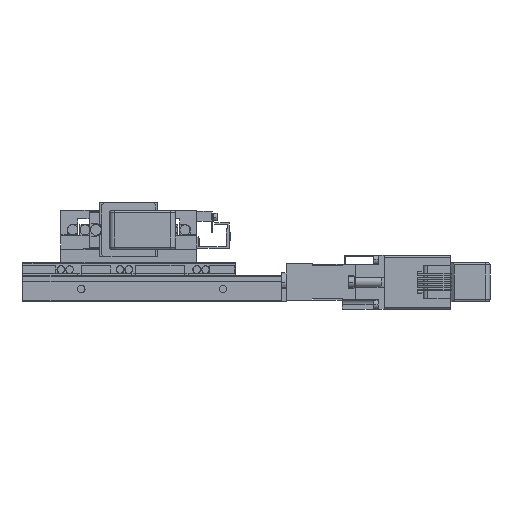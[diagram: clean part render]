
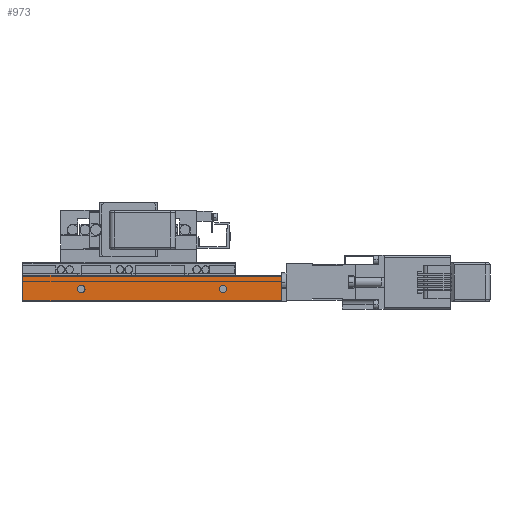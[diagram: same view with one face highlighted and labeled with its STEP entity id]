
A CAD part, front view. The second image highlights one B-rep face of the part: STEP entity #973.
In plain terms, the highlighted planar face has unit normal (0, -1, 0).
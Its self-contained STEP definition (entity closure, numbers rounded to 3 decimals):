
#973=ADVANCED_FACE('',(#2579,#2580,#2581),#2582,.F.);
#2579=FACE_BOUND('',#5201,.T.);
#2580=FACE_BOUND('',#5202,.T.);
#2581=FACE_OUTER_BOUND('',#5203,.T.);
#2582=PLANE('',#5204);
#5201=EDGE_LOOP('',(#9662,#9663));
#5202=EDGE_LOOP('',(#9664,#9665));
#5203=EDGE_LOOP('',(#9666,#9667,#9668,#9669));
#5204=AXIS2_PLACEMENT_3D('',#9670,#9671,#9672);
#9662=ORIENTED_EDGE('',*,*,#17693,.T.);
#9663=ORIENTED_EDGE('',*,*,#17692,.T.);
#9664=ORIENTED_EDGE('',*,*,#17695,.T.);
#9665=ORIENTED_EDGE('',*,*,#17688,.T.);
#9666=ORIENTED_EDGE('',*,*,#17696,.T.);
#9667=ORIENTED_EDGE('',*,*,#17697,.F.);
#9668=ORIENTED_EDGE('',*,*,#17698,.F.);
#9669=ORIENTED_EDGE('',*,*,#17699,.T.);
#9670=CARTESIAN_POINT('',(78.5,-51.8,13.5));
#9671=DIRECTION('',(0.,1.0,0.));
#9672=DIRECTION('',(0.,0.,-1.0));
#17688=EDGE_CURVE('',#21233,#21237,#21239,.T.);
#17692=EDGE_CURVE('',#21241,#21245,#21247,.T.);
#17693=EDGE_CURVE('',#21245,#21241,#21248,.T.);
#17695=EDGE_CURVE('',#21237,#21233,#21250,.T.);
#17696=EDGE_CURVE('',#21251,#21252,#21253,.T.);
#17697=EDGE_CURVE('',#21254,#21252,#21255,.T.);
#17698=EDGE_CURVE('',#21256,#21254,#21257,.T.);
#17699=EDGE_CURVE('',#21256,#21251,#21258,.T.);
#21233=VERTEX_POINT('',#26684);
#21237=VERTEX_POINT('',#26689);
#21239=CIRCLE('',#26692,1.95);
#21241=VERTEX_POINT('',#26694);
#21245=VERTEX_POINT('',#26699);
#21247=CIRCLE('',#26702,1.95);
#21248=CIRCLE('',#26703,1.95);
#21250=CIRCLE('',#26705,1.95);
#21251=VERTEX_POINT('',#26706);
#21252=VERTEX_POINT('',#26707);
#21253=LINE('',#26708,#26709);
#21254=VERTEX_POINT('',#26710);
#21255=LINE('',#26711,#26712);
#21256=VERTEX_POINT('',#26713);
#21257=LINE('',#26714,#26715);
#21258=LINE('',#26716,#26717);
#26684=CARTESIAN_POINT('',(50.45,-51.8,6.5));
#26689=CARTESIAN_POINT('',(46.55,-51.8,6.5));
#26692=AXIS2_PLACEMENT_3D('',#33994,#33995,#33996);
#26694=CARTESIAN_POINT('',(-22.55,-51.8,6.5));
#26699=CARTESIAN_POINT('',(-26.45,-51.8,6.5));
#26702=AXIS2_PLACEMENT_3D('',#34002,#34003,#34004);
#26703=AXIS2_PLACEMENT_3D('',#34005,#34006,#34007);
#26705=AXIS2_PLACEMENT_3D('',#34011,#34012,#34013);
#26706=CARTESIAN_POINT('',(-54.5,-51.8,13.5));
#26707=CARTESIAN_POINT('',(-54.5,-51.8,0.5));
#26708=CARTESIAN_POINT('',(-54.5,-51.8,13.5));
#26709=VECTOR('',#34014,1000.0);
#26710=CARTESIAN_POINT('',(78.5,-51.8,0.5));
#26711=CARTESIAN_POINT('',(78.5,-51.8,0.5));
#26712=VECTOR('',#34015,1000.0);
#26713=CARTESIAN_POINT('',(78.5,-51.8,13.5));
#26714=CARTESIAN_POINT('',(78.5,-51.8,13.5));
#26715=VECTOR('',#34016,1000.0);
#26716=CARTESIAN_POINT('',(78.5,-51.8,13.5));
#26717=VECTOR('',#34017,1000.0);
#33994=CARTESIAN_POINT('',(48.5,-51.8,6.5));
#33995=DIRECTION('',(0.,1.0,0.));
#33996=DIRECTION('',(-1.0,0.,0.));
#34002=CARTESIAN_POINT('',(-24.5,-51.8,6.5));
#34003=DIRECTION('',(0.,1.0,0.));
#34004=DIRECTION('',(-1.0,0.,0.));
#34005=CARTESIAN_POINT('',(-24.5,-51.8,6.5));
#34006=DIRECTION('',(0.,1.0,0.));
#34007=DIRECTION('',(-1.0,0.,0.));
#34011=CARTESIAN_POINT('',(48.5,-51.8,6.5));
#34012=DIRECTION('',(0.,1.0,0.));
#34013=DIRECTION('',(-1.0,0.,0.));
#34014=DIRECTION('',(0.,0.,-1.0));
#34015=DIRECTION('',(-1.0,0.,0.));
#34016=DIRECTION('',(0.,0.,-1.0));
#34017=DIRECTION('',(-1.0,0.,0.));
